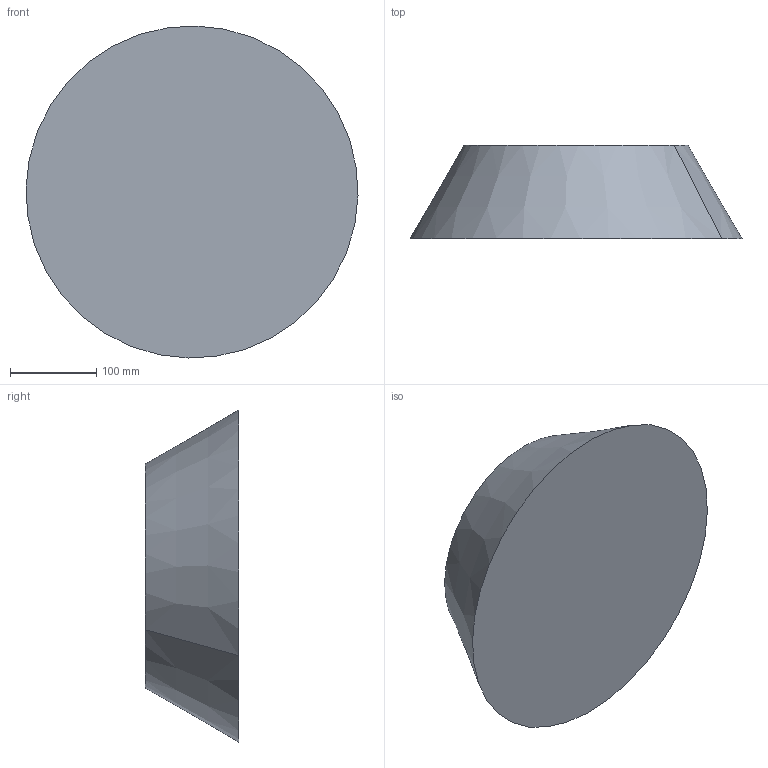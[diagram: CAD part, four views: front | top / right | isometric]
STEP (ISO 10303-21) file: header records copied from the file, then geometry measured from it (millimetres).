
FILE_DESCRIPTION(('CATIA V5 STEP Exchange'),'2;1');
FILE_NAME('C:\_Andres\UNIVERSIDAD\IQS\ASIGNATURAS\DAO\EXF\EXF-16172c\2inicio\dAndrea_Torrejon_Ej09_v8.stp','2017-03-05T22:13:10+00:00',('none'),('none'),'CATIA Version 5-6 Release 2014 SP1 HF18','CATIA V5 STEP AP203','none');
FILE_SCHEMA(('CONFIG_CONTROL_DESIGN'));
Length unit declared in the file: millimetre
Products named in the file (1): dAndrea_Torrejon_Ej09_v8
Bounding box: 383.89 x 108 x 383.89 mm (x, y, z)
Volume: 8877547.1 mm3; surface area: 296829.8 mm2
Topology: 1 solids, 2 shells, 8 faces, 12 edges, 8 vertices
Faces by surface type: plane 4, cone 2, cylinder 2
Entity records: 205 total; most frequent: CARTESIAN_POINT 27, DIRECTION 24, ORIENTED_EDGE 24, AXIS2_PLACEMENT_3D 15, EDGE_CURVE 12, ADVANCED_FACE 8, CIRCLE 8, EDGE_LOOP 8
